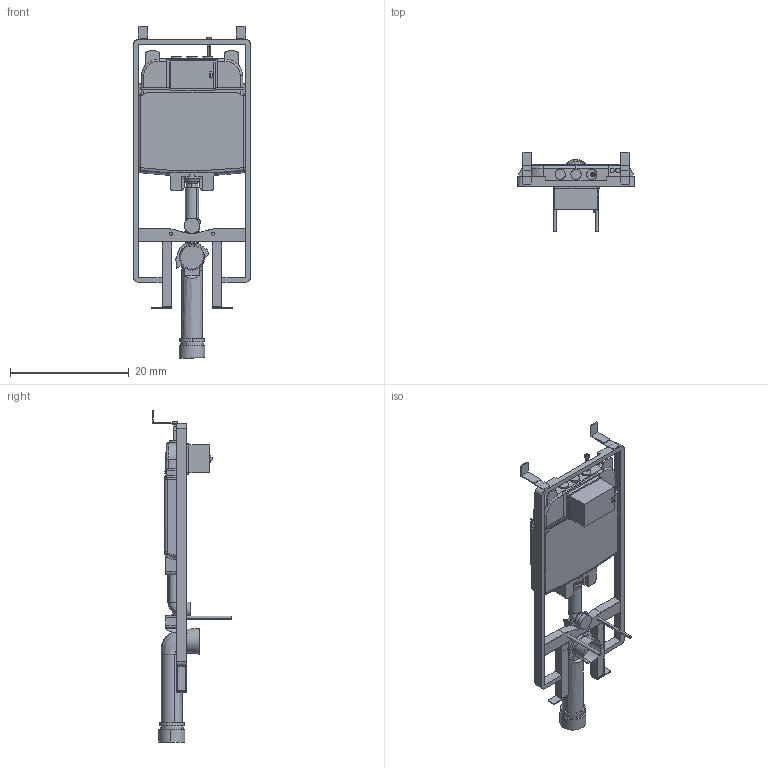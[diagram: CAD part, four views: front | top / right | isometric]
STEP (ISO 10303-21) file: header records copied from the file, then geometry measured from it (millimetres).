
FILE_DESCRIPTION(/* description */ (''),/* implementation_level */ '2;1');
FILE_NAME(/* name */ 'WD1031000000',/* time_stamp */ '2023-07-14T10:47:58+02:00',/* author */ (''),/* organization */ (''),/* preprocessor_version */ 'ST-DEVELOPER v15',/* originating_system */ '',/* authorisation */ '');
FILE_SCHEMA (('AUTOMOTIVE_DESIGN'));
Length unit declared in the file: millimetre
Products named in the file (1): Document
Bounding box: 19.68 x 13.41 x 55.89 mm (x, y, z)
Volume: 1709.2 mm3; surface area: 3402.4 mm2
Topology: 38 solids, 40 shells, 622 faces, 1554 edges, 1017 vertices
Faces by surface type: plane 465, bspline 157
Entity records: 19872 total; most frequent: CARTESIAN_POINT 9792, ORIENTED_EDGE 3099, EDGE_CURVE 1554, VERTEX_POINT 1017, B_SPLINE_CURVE_WITH_KNOTS 980, EDGE_LOOP 637, ADVANCED_FACE 622, FACE_OUTER_BOUND 622
